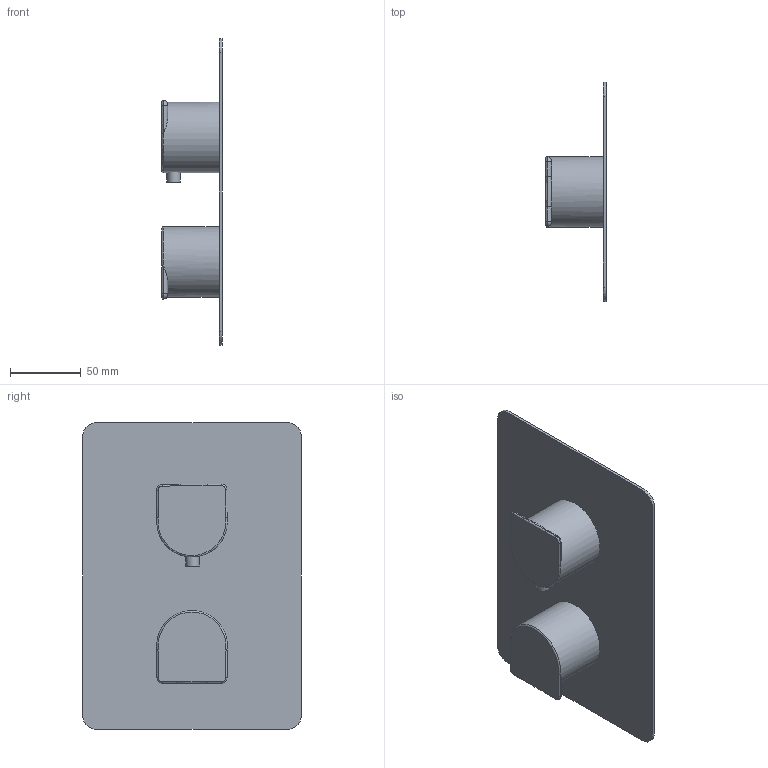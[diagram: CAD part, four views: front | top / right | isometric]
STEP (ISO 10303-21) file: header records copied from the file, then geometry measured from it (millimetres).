
FILE_DESCRIPTION (( 'STEP AP203' ), '1' );
FILE_NAME ('802605 x architetti.STEP', '2023-07-04T06:52:08', ( '' ), ( '' ), 'SwSTEP 2.0', 'SolidWorks 2020', '' );
FILE_SCHEMA (( 'CONFIG_CONTROL_DESIGN' ));
Length unit declared in the file: millimetre
Products named in the file (1): 802605 x architetti
Bounding box: 42.5 x 155 x 217 mm (x, y, z)
Surface area: 89116.2 mm2 (no closed solid volume)
Topology: 0 solids, 7 shells, 83 faces, 179 edges, 114 vertices
Faces by surface type: cylinder 36, plane 30, torus 6, sphere 4, bspline 4, cone 3
Full cylindrical faces by diameter (mm): 2.5 x2, 2.55 x1, 3.1 x1, 7.6 x1, 9.6 x1, 11.5 x1, 13.5 x1, 19 x1, 47 x1, 50 x2
Entity records: 3220 total; most frequent: CARTESIAN_POINT 1456, DIRECTION 366, ORIENTED_EDGE 307, AXIS2_PLACEMENT_3D 155, EDGE_CURVE 154, EDGE_LOOP 107, VERTEX_POINT 104, FACE_OUTER_BOUND 95
